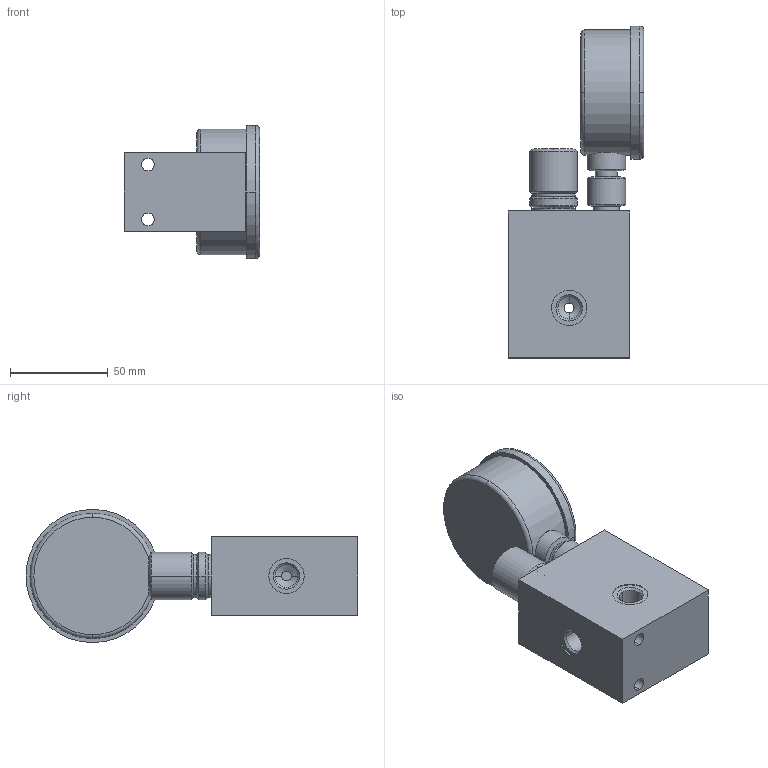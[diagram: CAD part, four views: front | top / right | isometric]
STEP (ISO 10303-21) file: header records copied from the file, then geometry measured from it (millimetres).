
FILE_DESCRIPTION((''),'2;1');
FILE_NAME('MAX_PRESSURE_VALVE.stp','2017-06-05T15:37:27',(''),(''),'Mechanical Desktop 2008','Mechanical Desktop 2008',', , ');
FILE_SCHEMA(('AUTOMOTIVE_DESIGN { 1 2 10303 214 1 1 1 1 }'));
Length unit declared in the file: millimetre
Products named in the file (2): 7050013; PART1
Assembly tree (1 placements, depth 2):
  7050013
    PART1
Bounding box: 69 x 169.5 x 68 mm (x, y, z)
Volume: 286715.1 mm3; surface area: 45046.1 mm2
Topology: 1 solids, 1 shells, 210 faces, 523 edges, 340 vertices
Faces by surface type: plane 96, cylinder 52, bspline 28, cone 22, torus 12
Entity records: 6594 total; most frequent: CARTESIAN_POINT 1565, ORIENTED_EDGE 1046, DIRECTION 987, EDGE_CURVE 523, AXIS2_PLACEMENT_3D 342, VERTEX_POINT 340, VECTOR 303, LINE 303
